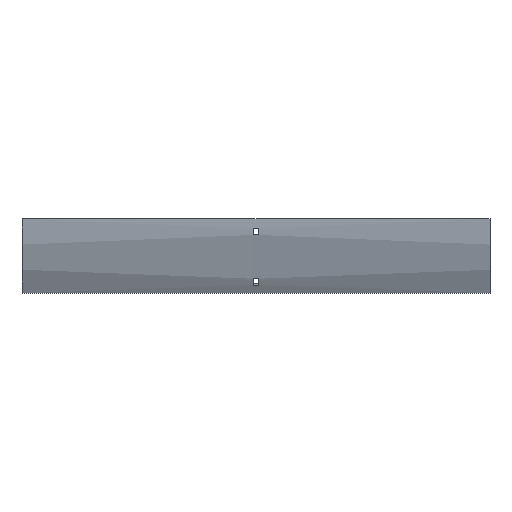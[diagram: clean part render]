
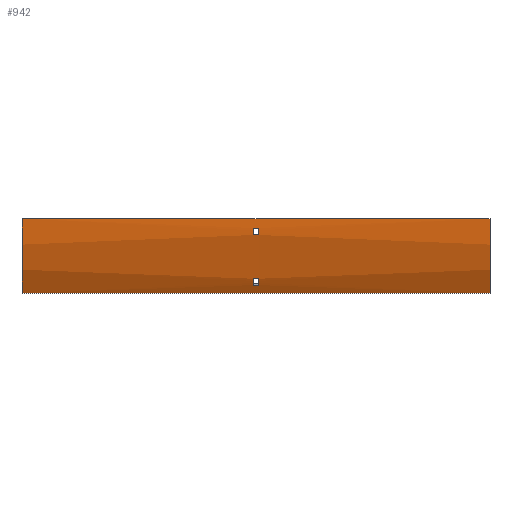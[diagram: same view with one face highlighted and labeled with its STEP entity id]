
A CAD part, front view. The second image highlights one B-rep face of the part: STEP entity #942.
In plain terms, the highlighted cylindrical face has radius 192.5 mm (diameter 385 mm), a partial arc.
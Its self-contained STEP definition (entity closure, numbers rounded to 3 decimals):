
#8 = CIRCLE ( 'NONE', #1544, 192.5 ) ;
#21 = CARTESIAN_POINT ( 'NONE',  ( 3.25, -72.386, -85.671 ) ) ;
#25 = VERTEX_POINT ( 'NONE', #1420 ) ;
#33 = EDGE_CURVE ( 'NONE', #1171, #437, #1334, .T. ) ;
#46 = CARTESIAN_POINT ( 'NONE',  ( 302., -76.215, -77.489 ) ) ;
#64 = CARTESIAN_POINT ( 'NONE',  ( 302., -92.5, 0. ) ) ;
#70 = VERTEX_POINT ( 'NONE', #279 ) ;
#85 = CARTESIAN_POINT ( 'NONE',  ( 302., -66.71, -96.25 ) ) ;
#99 = EDGE_LOOP ( 'NONE', ( #1367, #506, #489, #1029 ) ) ;
#217 = DIRECTION ( 'NONE',  ( 0., 0., 1. ) ) ;
#233 = FACE_BOUND ( 'NONE', #1417, .T. ) ;
#258 = VECTOR ( 'NONE', #490, 1000. ) ;
#259 = CARTESIAN_POINT ( 'NONE',  ( -3.25, 100., 0. ) ) ;
#279 = CARTESIAN_POINT ( 'NONE',  ( -302., -66.71, -96.25 ) ) ;
#288 = DIRECTION ( 'NONE',  ( -1., 0., 0. ) ) ;
#289 = VECTOR ( 'NONE', #291, 1000. ) ;
#291 = DIRECTION ( 'NONE',  ( -1., 0., 0. ) ) ;
#310 = ORIENTED_EDGE ( 'NONE', *, *, #313, .T. ) ;
#313 = EDGE_CURVE ( 'NONE', #719, #929, #1168, .T. ) ;
#336 = VECTOR ( 'NONE', #288, 1000. ) ;
#361 = EDGE_CURVE ( 'NONE', #857, #70, #1225, .T. ) ;
#394 = EDGE_CURVE ( 'NONE', #542, #612, #481, .T. ) ;
#429 = CARTESIAN_POINT ( 'NONE',  ( 302., 100., 0. ) ) ;
#437 = VERTEX_POINT ( 'NONE', #882 ) ;
#449 = AXIS2_PLACEMENT_3D ( 'NONE', #429, #948, #815 ) ;
#457 = CARTESIAN_POINT ( 'NONE',  ( 302., -66.71, -96.25 ) ) ;
#467 = CARTESIAN_POINT ( 'NONE',  ( -302., -92.5, 0. ) ) ;
#477 = VECTOR ( 'NONE', #870, 1000. ) ;
#481 = LINE ( 'NONE', #1396, #1229 ) ;
#489 = ORIENTED_EDGE ( 'NONE', *, *, #1108, .F. ) ;
#490 = DIRECTION ( 'NONE',  ( -1., 0., 0. ) ) ;
#506 = ORIENTED_EDGE ( 'NONE', *, *, #361, .F. ) ;
#525 = AXIS2_PLACEMENT_3D ( 'NONE', #1675, #1384, #217 ) ;
#542 = VERTEX_POINT ( 'NONE', #1439 ) ;
#549 = DIRECTION ( 'NONE',  ( 0., 0., -1. ) ) ;
#552 = ORIENTED_EDGE ( 'NONE', *, *, #868, .T. ) ;
#584 = VECTOR ( 'NONE', #1511, 1000. ) ;
#590 = DIRECTION ( 'NONE',  ( 0., 0., -1. ) ) ;
#597 = AXIS2_PLACEMENT_3D ( 'NONE', #1236, #1607, #590 ) ;
#607 = EDGE_LOOP ( 'NONE', ( #552, #1044, #928, #310 ) ) ;
#612 = VERTEX_POINT ( 'NONE', #21 ) ;
#632 = DIRECTION ( 'NONE',  ( 1., 0., 0. ) ) ;
#681 = EDGE_CURVE ( 'NONE', #612, #25, #1269, .T. ) ;
#719 = VERTEX_POINT ( 'NONE', #1474 ) ;
#725 = EDGE_CURVE ( 'NONE', #25, #1288, #1596, .T. ) ;
#742 = CARTESIAN_POINT ( 'NONE',  ( 302., -91.351, -21. ) ) ;
#768 = DIRECTION ( 'NONE',  ( 0., 0., -1. ) ) ;
#798 = DIRECTION ( 'NONE',  ( -1., 0., 0. ) ) ;
#815 = DIRECTION ( 'NONE',  ( 0., 0., -1. ) ) ;
#857 = VERTEX_POINT ( 'NONE', #85 ) ;
#861 = CARTESIAN_POINT ( 'NONE',  ( 3.25, -91.351, -21. ) ) ;
#868 = EDGE_CURVE ( 'NONE', #929, #1171, #1026, .T. ) ;
#869 = EDGE_CURVE ( 'NONE', #437, #719, #1153, .T. ) ;
#870 = DIRECTION ( 'NONE',  ( 1., 0., 0. ) ) ;
#882 = CARTESIAN_POINT ( 'NONE',  ( -3.25, -92.126, -12. ) ) ;
#928 = ORIENTED_EDGE ( 'NONE', *, *, #869, .T. ) ;
#929 = VERTEX_POINT ( 'NONE', #861 ) ;
#932 = DIRECTION ( 'NONE',  ( 1., 0., 0. ) ) ;
#941 = ORIENTED_EDGE ( 'NONE', *, *, #394, .F. ) ;
#942 = ADVANCED_FACE ( 'NONE', ( #1669, #1404, #233 ), #1262, .T. ) ;
#948 = DIRECTION ( 'NONE',  ( 1., 0., 0. ) ) ;
#951 = DIRECTION ( 'NONE',  ( 0., 0., 1. ) ) ;
#961 = ORIENTED_EDGE ( 'NONE', *, *, #681, .F. ) ;
#972 = EDGE_CURVE ( 'NONE', #1288, #542, #1652, .T. ) ;
#1026 = LINE ( 'NONE', #742, #584 ) ;
#1029 = ORIENTED_EDGE ( 'NONE', *, *, #1639, .T. ) ;
#1042 = VERTEX_POINT ( 'NONE', #64 ) ;
#1044 = ORIENTED_EDGE ( 'NONE', *, *, #33, .T. ) ;
#1068 = DIRECTION ( 'NONE',  ( 0., 0., 1. ) ) ;
#1074 = EDGE_CURVE ( 'NONE', #1495, #70, #8, .T. ) ;
#1077 = CARTESIAN_POINT ( 'NONE',  ( 3.25, 100., 0. ) ) ;
#1094 = CARTESIAN_POINT ( 'NONE',  ( -3.25, -91.351, -21. ) ) ;
#1108 = EDGE_CURVE ( 'NONE', #1042, #857, #1182, .T. ) ;
#1120 = AXIS2_PLACEMENT_3D ( 'NONE', #1695, #798, #1068 ) ;
#1134 = LINE ( 'NONE', #1673, #258 ) ;
#1136 = AXIS2_PLACEMENT_3D ( 'NONE', #1077, #1504, #951 ) ;
#1153 = LINE ( 'NONE', #1529, #477 ) ;
#1168 = CIRCLE ( 'NONE', #597, 192.5 ) ;
#1171 = VERTEX_POINT ( 'NONE', #1094 ) ;
#1182 = CIRCLE ( 'NONE', #449, 192.5 ) ;
#1191 = DIRECTION ( 'NONE',  ( 1., 0., 0. ) ) ;
#1225 = LINE ( 'NONE', #457, #289 ) ;
#1229 = VECTOR ( 'NONE', #632, 1000. ) ;
#1236 = CARTESIAN_POINT ( 'NONE',  ( 3.25, 100., 0. ) ) ;
#1260 = CARTESIAN_POINT ( 'NONE',  ( -3.25, -76.215, -77.489 ) ) ;
#1262 = CYLINDRICAL_SURFACE ( 'NONE', #525, 192.5 ) ;
#1269 = CIRCLE ( 'NONE', #1136, 192.5 ) ;
#1288 = VERTEX_POINT ( 'NONE', #1260 ) ;
#1334 = CIRCLE ( 'NONE', #1120, 192.5 ) ;
#1367 = ORIENTED_EDGE ( 'NONE', *, *, #1074, .T. ) ;
#1374 = ORIENTED_EDGE ( 'NONE', *, *, #725, .F. ) ;
#1384 = DIRECTION ( 'NONE',  ( -1., 0., 0. ) ) ;
#1396 = CARTESIAN_POINT ( 'NONE',  ( 302., -72.386, -85.671 ) ) ;
#1404 = FACE_BOUND ( 'NONE', #607, .T. ) ;
#1417 = EDGE_LOOP ( 'NONE', ( #1672, #1374, #961, #941 ) ) ;
#1420 = CARTESIAN_POINT ( 'NONE',  ( 3.25, -76.215, -77.489 ) ) ;
#1439 = CARTESIAN_POINT ( 'NONE',  ( -3.25, -72.386, -85.671 ) ) ;
#1474 = CARTESIAN_POINT ( 'NONE',  ( 3.25, -92.126, -12. ) ) ;
#1495 = VERTEX_POINT ( 'NONE', #467 ) ;
#1504 = DIRECTION ( 'NONE',  ( -1., 0., 0. ) ) ;
#1511 = DIRECTION ( 'NONE',  ( -1., 0., 0. ) ) ;
#1513 = AXIS2_PLACEMENT_3D ( 'NONE', #259, #1191, #768 ) ;
#1529 = CARTESIAN_POINT ( 'NONE',  ( 302., -92.126, -12. ) ) ;
#1544 = AXIS2_PLACEMENT_3D ( 'NONE', #1619, #932, #549 ) ;
#1596 = LINE ( 'NONE', #46, #336 ) ;
#1607 = DIRECTION ( 'NONE',  ( 1., 0., 0. ) ) ;
#1619 = CARTESIAN_POINT ( 'NONE',  ( -302., 100., 0. ) ) ;
#1639 = EDGE_CURVE ( 'NONE', #1042, #1495, #1134, .T. ) ;
#1652 = CIRCLE ( 'NONE', #1513, 192.5 ) ;
#1669 = FACE_OUTER_BOUND ( 'NONE', #99, .T. ) ;
#1672 = ORIENTED_EDGE ( 'NONE', *, *, #972, .F. ) ;
#1673 = CARTESIAN_POINT ( 'NONE',  ( 302., -92.5, 0. ) ) ;
#1675 = CARTESIAN_POINT ( 'NONE',  ( 302., 100., 0. ) ) ;
#1695 = CARTESIAN_POINT ( 'NONE',  ( -3.25, 100., 0. ) ) ;
